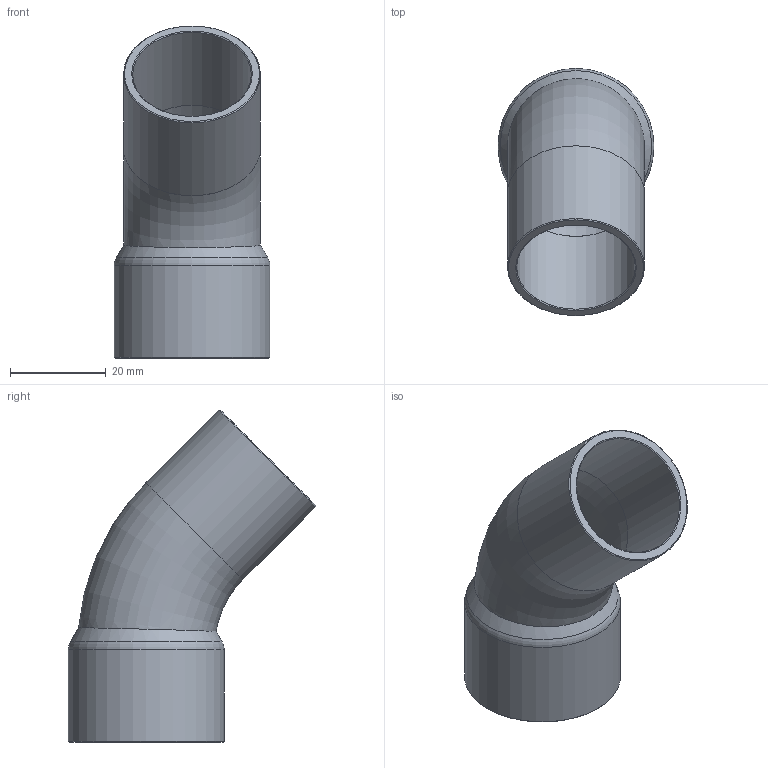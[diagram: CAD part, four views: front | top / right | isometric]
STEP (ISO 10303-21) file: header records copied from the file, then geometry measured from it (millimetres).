
FILE_DESCRIPTION((''),'2;1');
FILE_NAME('G:\SANHA-Ternat\Technik\Management\Bouwmaten + markeringen\z-maattekeningen 3D\29000s\29040118_3d.stp','2017-07-26T14:18:54',('vdvijverd'),(''),'Autodesk Inventor 2009','Autodesk Inventor 2009','');
FILE_SCHEMA(('AUTOMOTIVE_DESIGN { 1 0 10303 214 1 1 1 1 }'));
Length unit declared in the file: millimetre
Products named in the file (1): 29040118_3d
Bounding box: 32.52 x 51.61 x 69.26 mm (x, y, z)
Volume: 11464.6 mm3; surface area: 12375.6 mm2
Topology: 1 solids, 1 shells, 18 faces, 34 edges, 20 vertices
Faces by surface type: cone 6, plane 4, cylinder 4, torus 3, bspline 1
Full cylindrical faces by diameter (mm): 24.775 x1, 28.575 x1, 28.725 x1, 32.525 x1
Entity records: 502 total; most frequent: CARTESIAN_POINT 173, DIRECTION 68, ORIENTED_EDGE 36, EDGE_LOOP 36, AXIS2_PLACEMENT_3D 34, VERTEX_POINT 18, EDGE_CURVE 18, FACE_OUTER_BOUND 18
